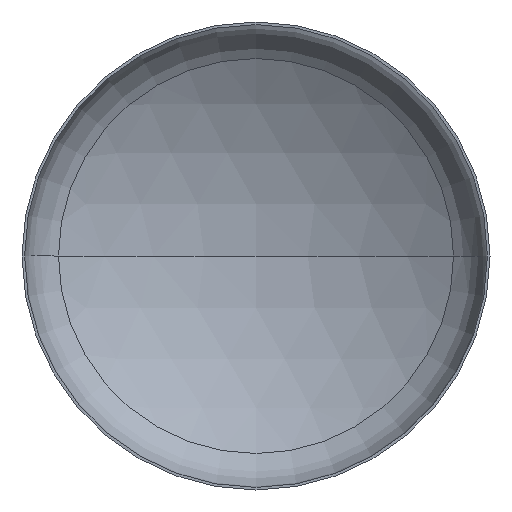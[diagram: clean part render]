
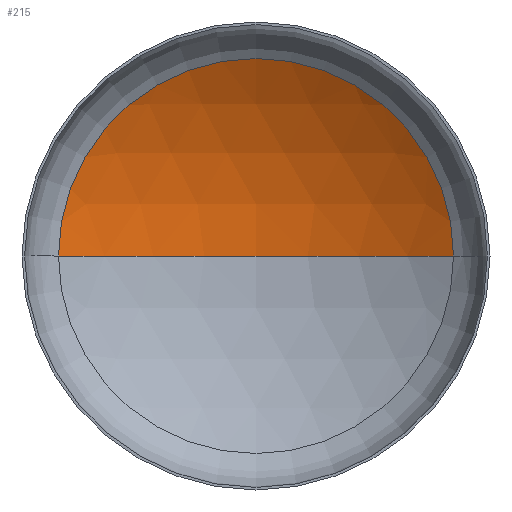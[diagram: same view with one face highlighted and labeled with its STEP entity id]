
A CAD part, front view. The second image highlights one B-rep face of the part: STEP entity #215.
In plain terms, the highlighted spherical face has radius 2560 mm.
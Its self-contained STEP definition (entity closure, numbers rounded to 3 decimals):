
#4 = CARTESIAN_POINT ( 'NONE',  ( 0., -1703.532, 0. ) ) ;
#9 = AXIS2_PLACEMENT_3D ( 'NONE', #196, #201, #373 ) ;
#11 = AXIS2_PLACEMENT_3D ( 'NONE', #182, #406, #307 ) ;
#13 = DIRECTION ( 'NONE',  ( -1., 0., 0. ) ) ;
#16 = EDGE_LOOP ( 'NONE', ( #112, #78, #22 ) ) ;
#22 = ORIENTED_EDGE ( 'NONE', *, *, #383, .T. ) ;
#23 = VERTEX_POINT ( 'NONE', #288 ) ;
#27 = DIRECTION ( 'NONE',  ( 0., 0., -1. ) ) ;
#60 = AXIS2_PLACEMENT_3D ( 'NONE', #4, #27, #13 ) ;
#61 = VERTEX_POINT ( 'NONE', #242 ) ;
#71 = CIRCLE ( 'NONE', #11, 2560. ) ;
#78 = ORIENTED_EDGE ( 'NONE', *, *, #376, .T. ) ;
#80 = VERTEX_POINT ( 'NONE', #230 ) ;
#112 = ORIENTED_EDGE ( 'NONE', *, *, #353, .F. ) ;
#140 = CARTESIAN_POINT ( 'NONE',  ( 0., 471.271, 0. ) ) ;
#141 = DIRECTION ( 'NONE',  ( 0., -1., 0. ) ) ;
#147 = FACE_OUTER_BOUND ( 'NONE', #16, .T. ) ;
#166 = AXIS2_PLACEMENT_3D ( 'NONE', #140, #141, #318 ) ;
#182 = CARTESIAN_POINT ( 'NONE',  ( 0., -1703.532, 0. ) ) ;
#196 = CARTESIAN_POINT ( 'NONE',  ( 0., -1703.532, 0. ) ) ;
#201 = DIRECTION ( 'NONE',  ( 0., 0., -1. ) ) ;
#215 = ADVANCED_FACE ( 'NONE', ( #147 ), #280, .F. ) ;
#230 = CARTESIAN_POINT ( 'NONE',  ( -1350.493, 471.271, 0. ) ) ;
#242 = CARTESIAN_POINT ( 'NONE',  ( 0., 856.468, 0. ) ) ;
#280 = SPHERICAL_SURFACE ( 'NONE', #60, 2560. ) ;
#288 = CARTESIAN_POINT ( 'NONE',  ( 1350.493, 471.271, 0. ) ) ;
#298 = CIRCLE ( 'NONE', #166, 1350.493 ) ;
#307 = DIRECTION ( 'NONE',  ( 1., 0., 0. ) ) ;
#318 = DIRECTION ( 'NONE',  ( 1., 0., 0. ) ) ;
#353 = EDGE_CURVE ( 'NONE', #61, #80, #71, .T. ) ;
#373 = DIRECTION ( 'NONE',  ( -1., 0., 0. ) ) ;
#374 = CIRCLE ( 'NONE', #9, 2560. ) ;
#376 = EDGE_CURVE ( 'NONE', #61, #23, #374, .T. ) ;
#383 = EDGE_CURVE ( 'NONE', #23, #80, #298, .T. ) ;
#406 = DIRECTION ( 'NONE',  ( 0., 0., 1. ) ) ;
